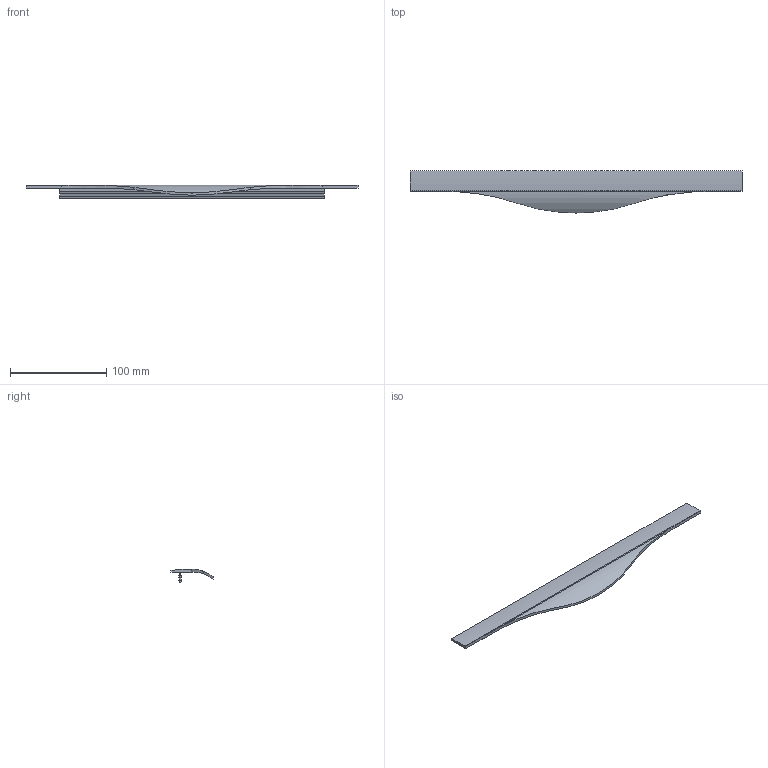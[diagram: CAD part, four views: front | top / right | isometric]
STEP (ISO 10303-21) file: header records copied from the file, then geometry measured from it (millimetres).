
FILE_DESCRIPTION( ( 'STEP AP214' ), '1' );
FILE_NAME( 'C:/Users/swati/Desktop/04-03-2016/9209995/9209995.stp', ' ', ( ' ' ), ( ' ' ), 'PSStep 15.0.47', 'PARTsolutions', ' ' );
FILE_SCHEMA( ( 'AUTOMOTIVE_DESIGN { 1 0 10303 214 1 1 1 1 }' ) );
Length unit declared in the file: millimetre
Products named in the file (2): 95 ; _
Assembly tree (1 placements, depth 2):
  95 
    _
Bounding box: 345 x 43.67 x 14 mm (x, y, z)
Volume: 32953.6 mm3; surface area: 29931.1 mm2
Topology: 1 solids, 1 shells, 32 faces, 87 edges, 58 vertices
Faces by surface type: plane 25, cylinder 7
Entity records: 1347 total; most frequent: CARTESIAN_POINT 251, ORIENTED_EDGE 174, DIRECTION 153, EDGE_CURVE 87, LINE 73, VECTOR 73, VERTEX_POINT 58, AXIS2_PLACEMENT_3D 40
